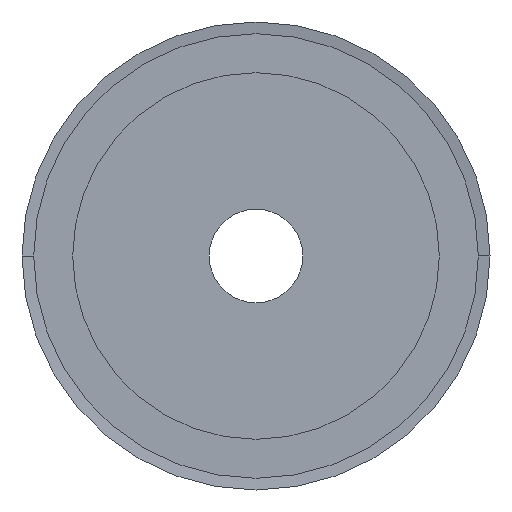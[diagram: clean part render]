
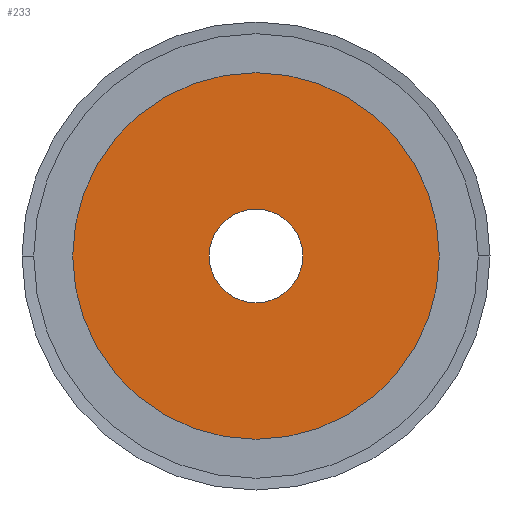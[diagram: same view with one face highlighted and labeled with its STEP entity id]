
A CAD part, left-side view. The second image highlights one B-rep face of the part: STEP entity #233.
In plain terms, the highlighted planar face has unit normal (-1, 0, 0).
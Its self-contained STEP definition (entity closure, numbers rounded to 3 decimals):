
#233 = ADVANCED_FACE( '', ( #557, #558 ), #559, .T. );
#557 = FACE_BOUND( '', #882, .T. );
#558 = FACE_OUTER_BOUND( '', #883, .T. );
#559 = PLANE( '', #884 );
#882 = EDGE_LOOP( '', ( #2251, #2252 ) );
#883 = EDGE_LOOP( '', ( #2253, #2254 ) );
#884 = AXIS2_PLACEMENT_3D( '', #2255, #2256, #2257 );
#2251 = ORIENTED_EDGE( '', *, *, #2297, .T. );
#2252 = ORIENTED_EDGE( '', *, *, #2293, .T. );
#2253 = ORIENTED_EDGE( '', *, *, #2261, .T. );
#2254 = ORIENTED_EDGE( '', *, *, #2705, .T. );
#2255 = CARTESIAN_POINT( '', ( 0., 11.75, 0. ) );
#2256 = DIRECTION( '', ( -1., 0., 0. ) );
#2257 = DIRECTION( '', ( 0., 1., 0. ) );
#2261 = EDGE_CURVE( '', #2707, #2711, #2713, .T. );
#2293 = EDGE_CURVE( '', #2771, #2768, #2772, .T. );
#2297 = EDGE_CURVE( '', #2768, #2771, #2777, .T. );
#2705 = EDGE_CURVE( '', #2711, #2707, #3449, .T. );
#2707 = VERTEX_POINT( '', #3451 );
#2711 = VERTEX_POINT( '', #3456 );
#2713 = CIRCLE( '', #3459, 23.5 );
#2768 = VERTEX_POINT( '', #3530 );
#2771 = VERTEX_POINT( '', #3534 );
#2772 = CIRCLE( '', #3535, 6. );
#2777 = CIRCLE( '', #3541, 6. );
#3449 = CIRCLE( '', #4433, 23.5 );
#3451 = CARTESIAN_POINT( '', ( 0., 23.5, 0. ) );
#3456 = CARTESIAN_POINT( '', ( 0., -23.5, 0. ) );
#3459 = AXIS2_PLACEMENT_3D( '', #4439, #4440, #4441 );
#3530 = CARTESIAN_POINT( '', ( 0., 6., 0. ) );
#3534 = CARTESIAN_POINT( '', ( 0., -6., 0. ) );
#3535 = AXIS2_PLACEMENT_3D( '', #4501, #4502, #4503 );
#3541 = AXIS2_PLACEMENT_3D( '', #4511, #4512, #4513 );
#4433 = AXIS2_PLACEMENT_3D( '', #5295, #5296, #5297 );
#4439 = CARTESIAN_POINT( '', ( 0., 0., 0. ) );
#4440 = DIRECTION( '', ( -1., 0., 0. ) );
#4441 = DIRECTION( '', ( 0., 1., 0. ) );
#4501 = CARTESIAN_POINT( '', ( 0., 0., 0. ) );
#4502 = DIRECTION( '', ( 1., 0., 0. ) );
#4503 = DIRECTION( '', ( 0., 1., 0. ) );
#4511 = CARTESIAN_POINT( '', ( 0., 0., 0. ) );
#4512 = DIRECTION( '', ( 1., 0., 0. ) );
#4513 = DIRECTION( '', ( 0., 1., 0. ) );
#5295 = CARTESIAN_POINT( '', ( 0., 0., 0. ) );
#5296 = DIRECTION( '', ( -1., 0., 0. ) );
#5297 = DIRECTION( '', ( 0., 1., 0. ) );
